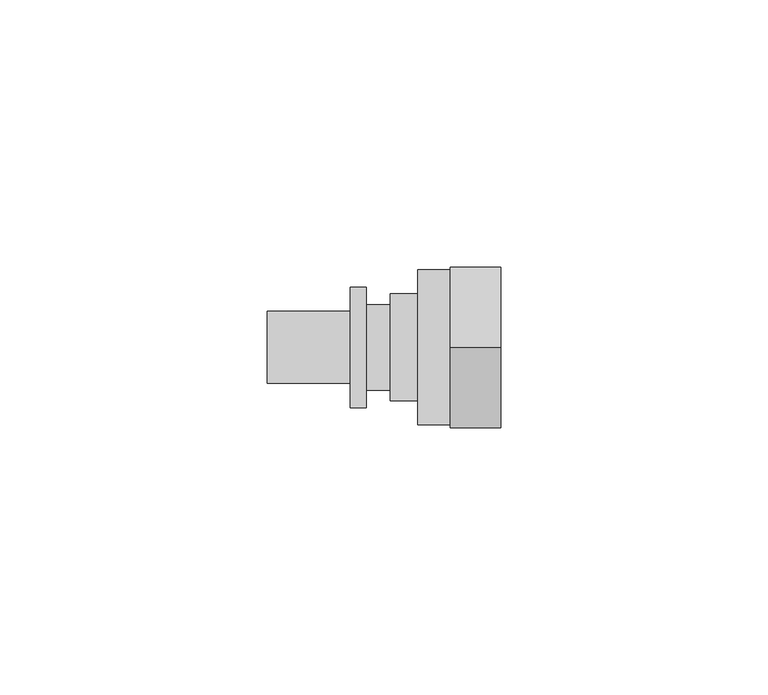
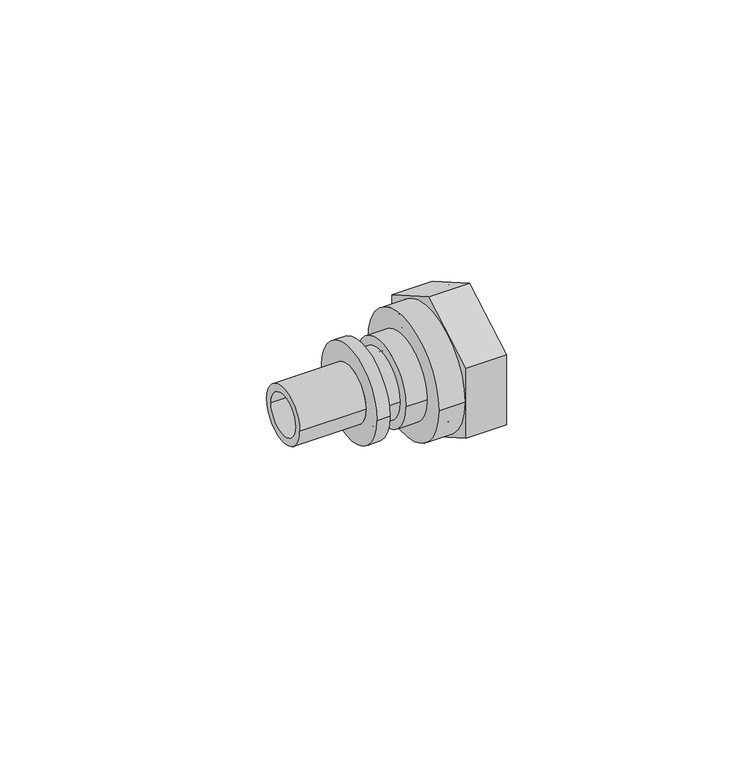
"""IFC4 building model written with IfcOpenShell, lengths in millimetres: pipe fitting geometry, REHAU_RAUTITAN_Adaptor_RX+_union nut : REHAU_RAUTITAN_Adaptor_RX+_union nut."""

from ifc_helpers import new_model, si_unit, point, frame, origin, origin_2d, place, context, project, spatial, polyline, circle_curve, trimmed, segment, composite_curve, outline, extrude, source, transform, mapped, element, save
from ifc_brep_helpers import plane_surface, cylinder_surface, revolved_surface, advanced_brep


def pipe_fitting_0b8f8fc7(model_context):
    return source(origin(), model_context, "Body", "SolidModel", [
        extrude(outline(polyline([(0.0, -17.3205081), (-15.0, -8.660254), (-15.0, 8.660254), (0.0, 17.3205081), (15.0, 8.660254), (15.0, -8.660254), (0.0, -17.3205081)]), holes=[composite_curve([segment(trimmed(circle_curve(origin_2d(), 14.5), [point((-14.5, 0.0))], [point((14.5, 0.0))], True, "CARTESIAN"), True, "CONTINUOUS"), segment(trimmed(circle_curve(origin_2d(), 14.5), [point((14.5, 0.0))], [point((-14.5, 0.0))], True, "CARTESIAN"), True, "CONTINUOUS")], self_intersect=False)]), frame((11.2, 0.0, 0.0), z_axis=(1.0, 0.0, 0.0), x_axis=(0.0, 1.0, 0.0)), (0.0, 0.0, 1.0), 9.5),
        advanced_brep(
        [(20.7, 14.5, 0.0), (20.7, -14.5, 0.0), (5.2, -14.5, 0.0), (5.2, 14.5, 0.0), (8.0, 12.0, 0.0), (8.0, -12.0, 0.0), (20.7, -12.0, 0.0), (20.7, 12.0, 0.0), (5.2, 9.2, 0.0), (5.2, -9.2, 0.0), (8.0, -9.2, 0.0), (8.0, 9.2, 0.0)],
        [
            (0, 1, circle_curve(frame((20.7, 0.0, 0.0), z_axis=(-1.0, 0.0, 0.0), x_axis=(0.0, -1.0, 0.0)), 14.5)),
            (1, 2),
            (2, 3, circle_curve(frame((5.2, 0.0, 0.0), z_axis=(1.0, 0.0, 0.0), x_axis=(0.0, -1.0, 0.0)), 14.5)),
            (3, 0),
            (4, 5, circle_curve(frame((8.0, 0.0, 0.0), z_axis=(-1.0, 0.0, 0.0), x_axis=(0.0, -1.0, 0.0)), 12.0)),
            (5, 6),
            (6, 7, circle_curve(frame((20.7, 0.0, 0.0), z_axis=(1.0, 0.0, 0.0), x_axis=(0.0, -1.0, 0.0)), 12.0)),
            (7, 4),
            (8, 9, circle_curve(frame((5.2, 0.0, 0.0), z_axis=(-1.0, 0.0, 0.0), x_axis=(0.0, -1.0, 0.0)), 9.2)),
            (9, 10),
            (10, 11, circle_curve(frame((8.0, 0.0, 0.0), z_axis=(1.0, 0.0, 0.0), x_axis=(0.0, -1.0, 0.0)), 9.2)),
            (11, 8),
            (1, 0, circle_curve(frame((20.7, 0.0, 0.0), z_axis=(-1.0, 0.0, 0.0), x_axis=(0.0, 1.0, 0.0)), 14.5)),
            (3, 2, circle_curve(frame((5.2, 0.0, 0.0), z_axis=(1.0, 0.0, 0.0), x_axis=(0.0, 1.0, 0.0)), 14.5)),
            (6, 7, circle_curve(frame((20.7, 0.0, 0.0), z_axis=(-1.0, 0.0, 0.0), x_axis=(0.0, 1.0, 0.0)), 12.0)),
            (5, 4, circle_curve(frame((8.0, 0.0, 0.0), z_axis=(-1.0, 0.0, 0.0), x_axis=(0.0, 1.0, 0.0)), 12.0)),
            (10, 11, circle_curve(frame((8.0, 0.0, 0.0), z_axis=(-1.0, 0.0, 0.0), x_axis=(0.0, 1.0, 0.0)), 9.2)),
            (9, 8, circle_curve(frame((5.2, 0.0, 0.0), z_axis=(-1.0, 0.0, 0.0), x_axis=(0.0, 1.0, 0.0)), 9.2)),
        ],
        [
            cylinder_surface(frame((0.0, 0.0, 0.0), z_axis=(1.0, 0.0, 0.0), x_axis=(0.0, -1.0, 0.0)), 14.5),
            revolved_surface(polyline([(20.7, -12.0, 0.0), (8.0, -12.0, 0.0)]), (0.0, 0.0, 0.0), (1.0, 0.0, 0.0)),
            revolved_surface(polyline([(8.0, -9.2, 0.0), (5.2, -9.2, 0.0)]), (0.0, 0.0, 0.0), (1.0, 0.0, 0.0)),
            cylinder_surface(frame((0.0, 0.0, 0.0), z_axis=(1.0, 0.0, 0.0), x_axis=(0.0, 1.0, 0.0)), 14.5),
            plane_surface(frame((20.7, 0.0, 0.0), z_axis=(1.0, 0.0, 0.0), x_axis=(0.0, 1.0, 0.0))),
            revolved_surface(polyline([(20.7, 12.0, 0.0), (8.0, 12.0, 0.0)]), (0.0, 0.0, 0.0), (1.0, 0.0, 0.0)),
            plane_surface(frame((8.0, 0.0, 0.0), z_axis=(1.0, 0.0, 0.0), x_axis=(0.0, 1.0, 0.0))),
            revolved_surface(polyline([(8.0, 9.2, 0.0), (5.2, 9.2, 0.0)]), (0.0, 0.0, 0.0), (1.0, 0.0, 0.0)),
            plane_surface(frame((5.2, 0.0, 0.0), z_axis=(-1.0, 0.0, 0.0), x_axis=(0.0, 1.0, 0.0))),
        ],
        [
            (0, [[1, 2, 3, 4]]),
            (1, [[5, 6, 7, 8]]),
            (2, [[9, 10, 11, 12]]),
            (3, [[13, -4, 14, -2]]),
            (4, [[-13, -1], [15, -7]]),
            (5, [[16, -8, -15, -6]]),
            (6, [[-16, -5], [17, -11]]),
            (7, [[18, -12, -17, -10]]),
            (8, [[-14, -3], [-18, -9]]),
        ],
    ),
        advanced_brep(
        [(8.0, 10.0, 0.0), (8.0, -10.0, 0.0), (0.0, -10.0, 0.0), (0.0, 10.0, 0.0), (11.0, 12.0, 0.0), (11.0, -12.0, 0.0), (8.0, -12.0, 0.0), (8.0, 12.0, 0.0), (1.4730817, 6.0, 0.0), (1.4730817, -6.0, 0.0), (11.0, -6.0, 0.0), (11.0, 6.0, 0.0), (0.0, 3.8264556, 0.0), (0.0, -3.8264556, 0.0), (1.4730817, -3.8264556, 0.0), (1.4730817, 3.8264556, 0.0)],
        [
            (0, 1, circle_curve(frame((8.0, 0.0, 0.0), z_axis=(-1.0, 0.0, 0.0), x_axis=(0.0, -1.0, 0.0)), 10.0)),
            (1, 2),
            (2, 3, circle_curve(frame((0.0, 0.0, 0.0), z_axis=(1.0, 0.0, 0.0), x_axis=(0.0, -1.0, 0.0)), 10.0)),
            (3, 0),
            (4, 5, circle_curve(frame((11.0, 0.0, 0.0), z_axis=(-1.0, 0.0, 0.0), x_axis=(0.0, -1.0, 0.0)), 12.0)),
            (5, 6),
            (6, 7, circle_curve(frame((8.0, 0.0, 0.0), z_axis=(1.0, 0.0, 0.0), x_axis=(0.0, -1.0, 0.0)), 12.0)),
            (7, 4),
            (8, 9, circle_curve(frame((1.4730817, 0.0, 0.0), z_axis=(-1.0, 0.0, 0.0), x_axis=(0.0, -1.0, 0.0)), 6.0)),
            (9, 10),
            (10, 11, circle_curve(frame((11.0, 0.0, 0.0), z_axis=(1.0, 0.0, 0.0), x_axis=(0.0, -1.0, 0.0)), 6.0)),
            (11, 8),
            (2, 3, circle_curve(frame((0.0, 0.0, 0.0), z_axis=(-1.0, 0.0, 0.0), x_axis=(0.0, 1.0, 0.0)), 10.0)),
            (12, 13, circle_curve(frame((0.0, 0.0, 0.0), z_axis=(1.0, 0.0, 0.0), x_axis=(0.0, 1.0, 0.0)), 3.8264556)),
            (13, 12, circle_curve(frame((0.0, 0.0, 0.0), z_axis=(1.0, 0.0, 0.0), x_axis=(0.0, -1.0, 0.0)), 3.8264556)),
            (1, 0, circle_curve(frame((8.0, 0.0, 0.0), z_axis=(-1.0, 0.0, 0.0), x_axis=(0.0, 1.0, 0.0)), 10.0)),
            (6, 7, circle_curve(frame((8.0, 0.0, 0.0), z_axis=(-1.0, 0.0, 0.0), x_axis=(0.0, 1.0, 0.0)), 12.0)),
            (5, 4, circle_curve(frame((11.0, 0.0, 0.0), z_axis=(-1.0, 0.0, 0.0), x_axis=(0.0, 1.0, 0.0)), 12.0)),
            (10, 11, circle_curve(frame((11.0, 0.0, 0.0), z_axis=(-1.0, 0.0, 0.0), x_axis=(0.0, 1.0, 0.0)), 6.0)),
            (9, 8, circle_curve(frame((1.4730817, 0.0, 0.0), z_axis=(-1.0, 0.0, 0.0), x_axis=(0.0, 1.0, 0.0)), 6.0)),
            (13, 14),
            (14, 15, circle_curve(frame((1.4730817, 0.0, 0.0), z_axis=(1.0, 0.0, 0.0), x_axis=(0.0, -1.0, 0.0)), 3.8264556)),
            (15, 12),
            (14, 15, circle_curve(frame((1.4730817, 0.0, 0.0), z_axis=(-1.0, 0.0, 0.0), x_axis=(0.0, 1.0, 0.0)), 3.8264556)),
        ],
        [
            cylinder_surface(frame((0.0, 0.0, 0.0), z_axis=(1.0, 0.0, 0.0), x_axis=(0.0, -1.0, 0.0)), 10.0),
            cylinder_surface(frame((0.0, 0.0, 0.0), z_axis=(1.0, 0.0, 0.0), x_axis=(0.0, -1.0, 0.0)), 12.0),
            revolved_surface(polyline([(11.0, -6.0, 0.0), (1.4730817, -6.0, 0.0)]), (0.0, 0.0, 0.0), (1.0, 0.0, 0.0)),
            plane_surface(frame((0.0, 0.0, 0.0), z_axis=(-1.0, 0.0, 0.0), x_axis=(0.0, 1.0, 0.0))),
            cylinder_surface(frame((0.0, 0.0, 0.0), z_axis=(1.0, 0.0, 0.0), x_axis=(0.0, 1.0, 0.0)), 10.0),
            plane_surface(frame((8.0, 0.0, 0.0), z_axis=(-1.0, 0.0, 0.0), x_axis=(0.0, 1.0, 0.0))),
            cylinder_surface(frame((0.0, 0.0, 0.0), z_axis=(1.0, 0.0, 0.0), x_axis=(0.0, 1.0, 0.0)), 12.0),
            plane_surface(frame((11.0, 0.0, 0.0), z_axis=(1.0, 0.0, 0.0), x_axis=(0.0, 1.0, 0.0))),
            revolved_surface(polyline([(11.0, 6.0, 0.0), (1.4730817, 6.0, 0.0)]), (0.0, 0.0, 0.0), (1.0, 0.0, 0.0)),
            revolved_surface(polyline([(1.4730817, -3.8264556, 0.0), (0.0, -3.8264556, 0.0)]), (0.0, 0.0, 0.0), (1.0, 0.0, 0.0)),
            plane_surface(frame((1.4730817, 0.0, 0.0), z_axis=(1.0, 0.0, 0.0), x_axis=(0.0, 1.0, 0.0))),
            revolved_surface(polyline([(1.4730817, 3.8264556, 0.0), (0.0, 3.8264556, 0.0)]), (0.0, 0.0, 0.0), (1.0, 0.0, 0.0)),
        ],
        [
            (0, [[1, 2, 3, 4]]),
            (1, [[5, 6, 7, 8]]),
            (2, [[9, 10, 11, 12]]),
            (3, [[13, -3], [14, 15]]),
            (4, [[16, -4, -13, -2]]),
            (5, [[17, -7], [-16, -1]]),
            (6, [[18, -8, -17, -6]]),
            (7, [[-18, -5], [19, -11]]),
            (8, [[20, -12, -19, -10]]),
            (9, [[-15, 21, 22, 23]]),
            (10, [[-20, -9], [24, -22]]),
            (11, [[-14, -23, -24, -21]]),
        ],
    ),
        advanced_brep(
        [(0.0, 8.0, 0.0), (0.0, -8.0, 0.0), (-4.5, -8.0, 0.0), (-4.5, 8.0, 0.0), (-23.0, 4.95, 0.0), (-23.0, -4.95, 0.0), (0.0, -4.95, 0.0), (0.0, 4.95, 0.0), (-7.5, 6.725, 0.0), (-7.5, -6.725, 0.0), (-23.0, -6.725, 0.0), (-23.0, 6.725, 0.0), (-4.5, 11.25, 0.0), (-4.5, -11.25, 0.0), (-7.5, -11.25, 0.0), (-7.5, 11.25, 0.0)],
        [
            (0, 1, circle_curve(frame((0.0, 0.0, 0.0), z_axis=(-1.0, 0.0, 0.0), x_axis=(0.0, -1.0, 0.0)), 8.0)),
            (1, 2),
            (2, 3, circle_curve(frame((-4.5, 0.0, 0.0), z_axis=(1.0, 0.0, 0.0), x_axis=(0.0, -1.0, 0.0)), 8.0)),
            (3, 0),
            (4, 5, circle_curve(frame((-23.0, 0.0, 0.0), z_axis=(-1.0, 0.0, 0.0), x_axis=(0.0, -1.0, 0.0)), 4.95)),
            (5, 6),
            (6, 7, circle_curve(frame((0.0, 0.0, 0.0), z_axis=(1.0, 0.0, 0.0), x_axis=(0.0, -1.0, 0.0)), 4.95)),
            (7, 4),
            (8, 9, circle_curve(frame((-7.5, 0.0, 0.0), z_axis=(-1.0, 0.0, 0.0), x_axis=(0.0, -1.0, 0.0)), 6.725)),
            (9, 10),
            (10, 11, circle_curve(frame((-23.0, 0.0, 0.0), z_axis=(1.0, 0.0, 0.0), x_axis=(0.0, -1.0, 0.0)), 6.725)),
            (11, 8),
            (12, 13, circle_curve(frame((-4.5, 0.0, 0.0), z_axis=(-1.0, 0.0, 0.0), x_axis=(0.0, -1.0, 0.0)), 11.25)),
            (13, 14),
            (14, 15, circle_curve(frame((-7.5, 0.0, 0.0), z_axis=(1.0, 0.0, 0.0), x_axis=(0.0, -1.0, 0.0)), 11.25)),
            (15, 12),
            (1, 0, circle_curve(frame((0.0, 0.0, 0.0), z_axis=(-1.0, 0.0, 0.0), x_axis=(0.0, 1.0, 0.0)), 8.0)),
            (3, 2, circle_curve(frame((-4.5, 0.0, 0.0), z_axis=(1.0, 0.0, 0.0), x_axis=(0.0, 1.0, 0.0)), 8.0)),
            (6, 7, circle_curve(frame((0.0, 0.0, 0.0), z_axis=(-1.0, 0.0, 0.0), x_axis=(0.0, 1.0, 0.0)), 4.95)),
            (5, 4, circle_curve(frame((-23.0, 0.0, 0.0), z_axis=(-1.0, 0.0, 0.0), x_axis=(0.0, 1.0, 0.0)), 4.95)),
            (10, 11, circle_curve(frame((-23.0, 0.0, 0.0), z_axis=(-1.0, 0.0, 0.0), x_axis=(0.0, 1.0, 0.0)), 6.725)),
            (9, 8, circle_curve(frame((-7.5, 0.0, 0.0), z_axis=(-1.0, 0.0, 0.0), x_axis=(0.0, 1.0, 0.0)), 6.725)),
            (14, 15, circle_curve(frame((-7.5, 0.0, 0.0), z_axis=(-1.0, 0.0, 0.0), x_axis=(0.0, 1.0, 0.0)), 11.25)),
            (13, 12, circle_curve(frame((-4.5, 0.0, 0.0), z_axis=(-1.0, 0.0, 0.0), x_axis=(0.0, 1.0, 0.0)), 11.25)),
        ],
        [
            cylinder_surface(frame((0.0, 0.0, 0.0), z_axis=(1.0, 0.0, 0.0), x_axis=(0.0, -1.0, 0.0)), 8.0),
            revolved_surface(polyline([(0.0, -4.95, 0.0), (-23.0, -4.95, 0.0)]), (0.0, 0.0, 0.0), (1.0, 0.0, 0.0)),
            cylinder_surface(frame((0.0, 0.0, 0.0), z_axis=(1.0, 0.0, 0.0), x_axis=(0.0, -1.0, 0.0)), 6.725),
            cylinder_surface(frame((0.0, 0.0, 0.0), z_axis=(1.0, 0.0, 0.0), x_axis=(0.0, -1.0, 0.0)), 11.25),
            cylinder_surface(frame((0.0, 0.0, 0.0), z_axis=(1.0, 0.0, 0.0), x_axis=(0.0, 1.0, 0.0)), 8.0),
            plane_surface(frame((0.0, 0.0, 0.0), z_axis=(1.0, 0.0, 0.0), x_axis=(0.0, 1.0, 0.0))),
            revolved_surface(polyline([(0.0, 4.95, 0.0), (-23.0, 4.95, 0.0)]), (0.0, 0.0, 0.0), (1.0, 0.0, 0.0)),
            plane_surface(frame((-23.0, 0.0, 0.0), z_axis=(-1.0, 0.0, 0.0), x_axis=(0.0, 1.0, 0.0))),
            cylinder_surface(frame((0.0, 0.0, 0.0), z_axis=(1.0, 0.0, 0.0), x_axis=(0.0, 1.0, 0.0)), 6.725),
            plane_surface(frame((-7.5, 0.0, 0.0), z_axis=(-1.0, 0.0, 0.0), x_axis=(0.0, 1.0, 0.0))),
            cylinder_surface(frame((0.0, 0.0, 0.0), z_axis=(1.0, 0.0, 0.0), x_axis=(0.0, 1.0, 0.0)), 11.25),
            plane_surface(frame((-4.5, 0.0, 0.0), z_axis=(1.0, 0.0, 0.0), x_axis=(0.0, 1.0, 0.0))),
        ],
        [
            (0, [[1, 2, 3, 4]]),
            (1, [[5, 6, 7, 8]]),
            (2, [[9, 10, 11, 12]]),
            (3, [[13, 14, 15, 16]]),
            (4, [[17, -4, 18, -2]]),
            (5, [[-17, -1], [19, -7]]),
            (6, [[20, -8, -19, -6]]),
            (7, [[21, -11], [-20, -5]]),
            (8, [[22, -12, -21, -10]]),
            (9, [[23, -15], [-22, -9]]),
            (10, [[24, -16, -23, -14]]),
            (11, [[-24, -13], [-18, -3]]),
        ],
    ),
    ])


if __name__ == "__main__":
    model = new_model("IFC4")
    model_context = context("Model", 3, world=origin())
    ifc_project = project(units=[si_unit("LENGTHUNIT", "METRE", prefix="MILLI")], contexts=[model_context])
    site = spatial("IfcSite", under=ifc_project)
    building = spatial("IfcBuilding", under=site)
    placement = place(None, origin())
    pipe_fitting_shape = pipe_fitting_0b8f8fc7(model_context)
    element("IfcPipeFitting", 1, ObjectType="REHAU_RAUTITAN_Adaptor_RX+_union nut : REHAU_RAUTITAN_Adaptor_RX+_union nut", at=placement, inside=building, context=model_context, shape_type="MappedRepresentation", body=[
        mapped(pipe_fitting_shape, transform((0.0, 0.0, 0.0), x_axis=(1.0, 0.0, 0.0), y_axis=(0.0, 1.0, 0.0), z_axis=(0.0, 0.0, 1.0))),
    ])
    save(model, "model.ifc")
